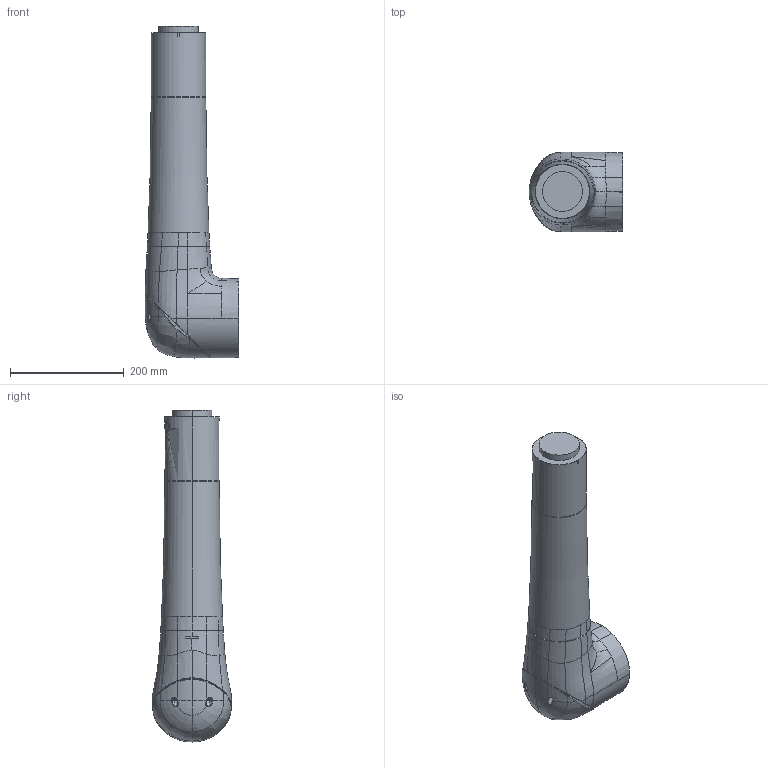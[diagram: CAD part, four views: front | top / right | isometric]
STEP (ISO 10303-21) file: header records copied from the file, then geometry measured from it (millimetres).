
FILE_DESCRIPTION(/* description */ ('AP214 STEP file'),/* implementation_level */ '2;1');
FILE_NAME(/* name */ '1300_model-c004_stp',/* time_stamp */ '2023-03-07T19:21:16+09:00',/* author */ (''),/* organization */ (''),/* preprocessor_version */ '7.2.1.0',/* originating_system */ 'Elysium Co. Ltd. STEP Translator',/* authorisation */ '');
FILE_SCHEMA (('AUTOMOTIVE_DESIGN'));
Length unit declared in the file: millimetre
Products named in the file (1): 1300_MODEL-C004
Bounding box: 164.64 x 140.15 x 582.82 mm (x, y, z)
Volume: 5846881.1 mm3; surface area: 250374.9 mm2
Topology: 1 solids, 1 shells, 318 faces, 762 edges, 461 vertices
Faces by surface type: bspline 112, plane 88, cylinder 48, cone 26, torus 22, sphere 10, extrusion 8, revolution 4
Entity records: 15588 total; most frequent: CARTESIAN_POINT 9411, ORIENTED_EDGE 1524, EDGE_CURVE 762, DIRECTION 743, VERTEX_POINT 461, AXIS2_PLACEMENT_3D 454, B_SPLINE_CURVE_WITH_KNOTS 356, EDGE_LOOP 333
